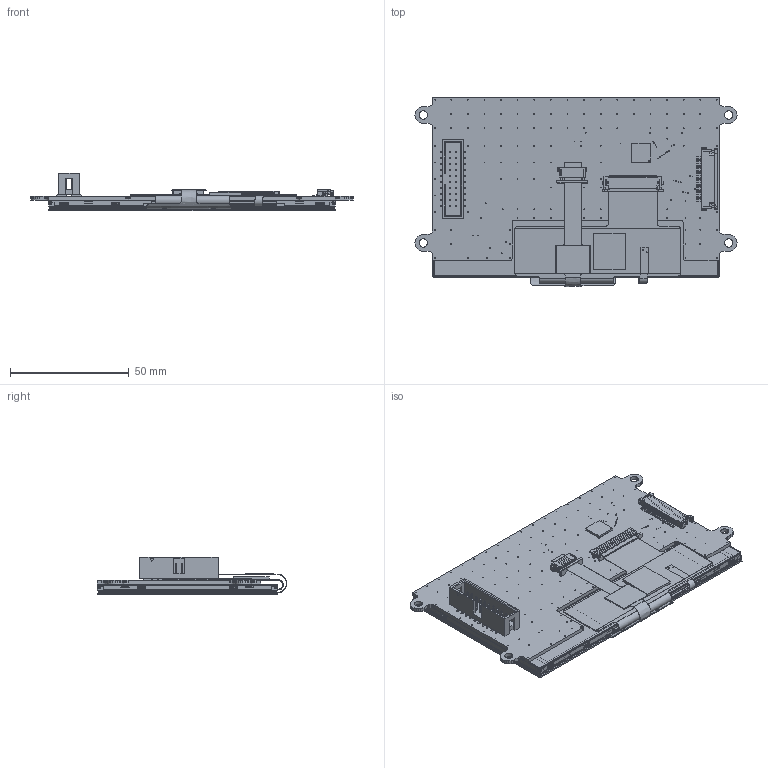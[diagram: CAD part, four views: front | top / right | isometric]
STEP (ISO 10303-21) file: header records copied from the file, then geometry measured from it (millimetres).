
FILE_DESCRIPTION (( 'STEP AP203' ), '1' );
FILE_NAME ('NHD-5.0-800480FT-CSXP-CTP.STEP', '2022-06-17T19:26:35', ( '' ), ( '' ), 'SwSTEP 2.0', 'SolidWorks 2019', '' );
FILE_SCHEMA (( 'CONFIG_CONTROL_DESIGN' ));
Products named in the file (1): NHD-5.0-800480FT-CSXP-CTP
Bounding box: 135.8 x 79.78 x 15.95 mm (x, y, z)
Volume: 50097.9 mm3; surface area: 213052.6 mm2
Topology: 24 solids, 26 shells, 5480 faces, 16120 edges, 10474 vertices
Faces by surface type: plane 4334, cylinder 1011, cone 101, bspline 34
Entity records: 182677 total; most frequent: CARTESIAN_POINT 34700, ORIENTED_EDGE 32132, DIRECTION 28813, EDGE_CURVE 16066, VECTOR 13765, LINE 13765, VERTEX_POINT 10474, AXIS2_PLACEMENT_3D 7524
